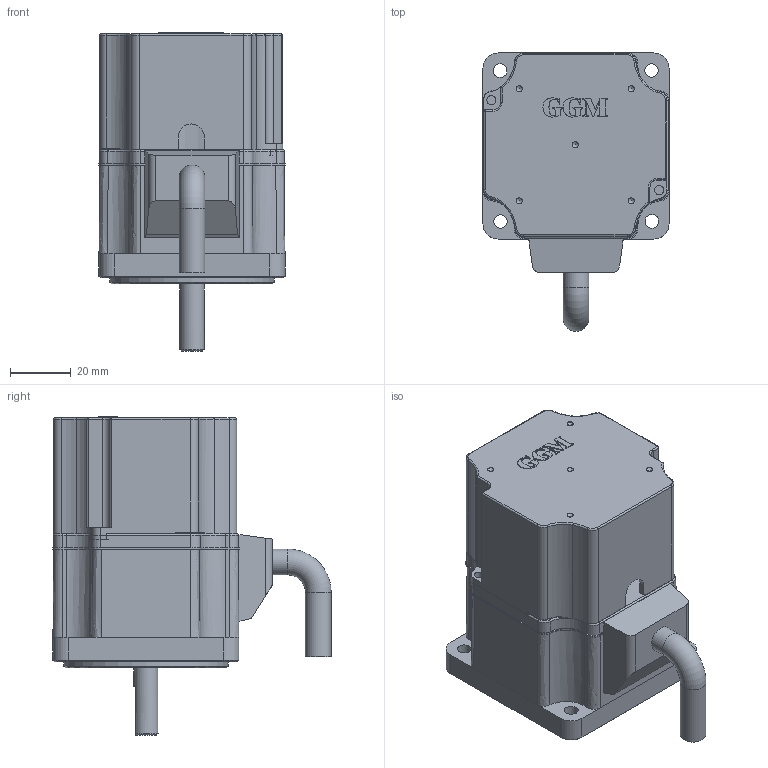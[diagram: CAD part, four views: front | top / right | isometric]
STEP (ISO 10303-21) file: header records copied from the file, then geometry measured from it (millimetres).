
FILE_DESCRIPTION((''),'2;1');
FILE_NAME('C:\Users\LEEKA\Desktop\홈페이지 업로드용\3D 단품\B Series brake\F Series brake\F Series 30w_brake_S.stp','2022-01-28T11:31:05',('LEEKA'),(''),'Autodesk Inventor 2012','Autodesk Inventor 2012','');
FILE_SCHEMA(('AUTOMOTIVE_DESIGN { 1 0 10303 214 1 1 1 1 }'));
Products named in the file (3): 조립품24; BRAKE COVER 최종; K6BS30N□
Assembly tree (2 placements, depth 2):
  조립품24
    BRAKE COVER 최종
    K6BS30N□
Bounding box: 61.1 x 91.3 x 104.3 mm (x, y, z)
Volume: 175388.7 mm3; surface area: 48780.2 mm2
Topology: 2 solids, 11 shells, 381 faces, 974 edges, 623 vertices
Faces by surface type: plane 157, cylinder 129, bspline 47, torus 29, cone 15, sphere 4
Full cylindrical faces by diameter (mm): 2 x5, 2.8 x8, 3 x2, 4.5 x4, 7.5 x1, 8 x1, 8.5 x2, 54 x1
Entity records: 12323 total; most frequent: CARTESIAN_POINT 3043, ORIENTED_EDGE 1862, DIRECTION 1841, EDGE_CURVE 931, AXIS2_PLACEMENT_3D 666, VERTEX_POINT 615, VECTOR 509, LINE 509
